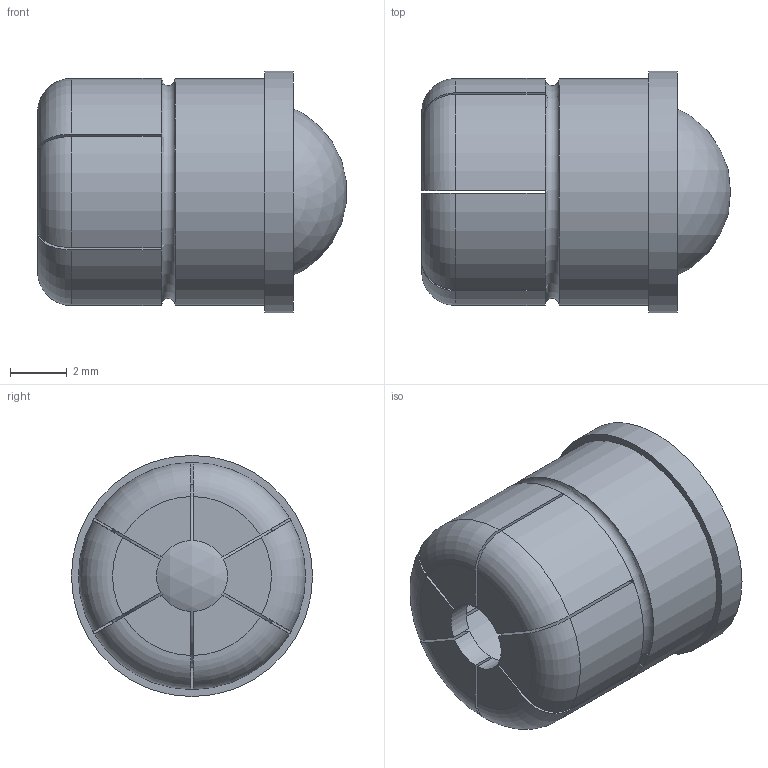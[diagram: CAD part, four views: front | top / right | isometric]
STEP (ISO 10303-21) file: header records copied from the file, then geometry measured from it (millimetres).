
FILE_DESCRIPTION( ( 'STEP AP203' ), '1' );
FILE_NAME( 'C:/Temp/Ganter_Step_05_03_2020/data/3_1/gn_614_5/Spring plunger GN 614.5-8-KD (deactivated).stp', '2020-03-12T09:12:49', ( 'License CC BY-ND 4.0' ), ( 'CADENAS' ), ' ', 'PARTsolutions', ' ' );
FILE_SCHEMA( ( 'CONFIG_CONTROL_DESIGN' ) );
Length unit declared in the file: millimetre
Products named in the file (1): _Spring plunger GN 614.5-8-KD (deactivated)
Bounding box: 10.88 x 8.5 x 8.5 mm (x, y, z)
Volume: 315.6 mm3; surface area: 653 mm2
Topology: 1 solids, 1 shells, 63 faces, 165 edges, 106 vertices
Faces by surface type: plane 32, cylinder 16, torus 13, sphere 2
Full cylindrical faces by diameter (mm): 6.48 x2, 8 x1, 8.5 x1
Entity records: 2054 total; most frequent: CARTESIAN_POINT 490, DIRECTION 322, ORIENTED_EDGE 314, EDGE_CURVE 157, AXIS2_PLACEMENT_3D 125, VERTEX_POINT 103, LINE 72, VECTOR 72
